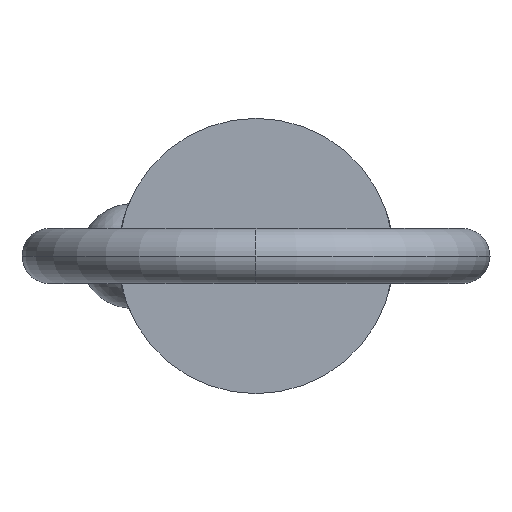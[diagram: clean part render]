
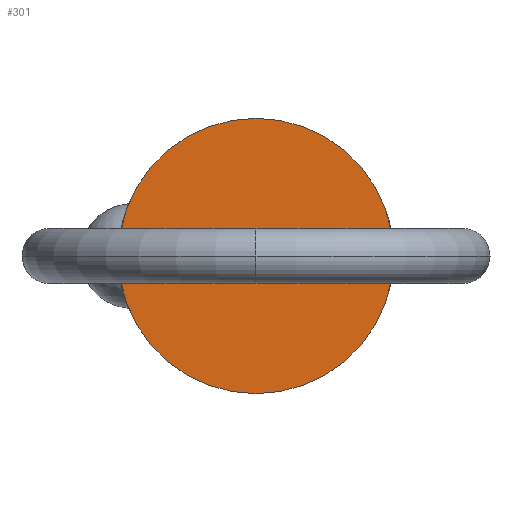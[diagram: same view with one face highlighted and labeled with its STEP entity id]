
A CAD part, left-side view. The second image highlights one B-rep face of the part: STEP entity #301.
In plain terms, the highlighted planar face has unit normal (-1, 0, 0).
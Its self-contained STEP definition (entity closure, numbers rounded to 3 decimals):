
#88 = FACE_OUTER_BOUND ( 'NONE', #637, .T. ) ;
#105 = DIRECTION ( 'NONE',  ( 0., 0., -1. ) ) ;
#128 = CARTESIAN_POINT ( 'NONE',  ( 0., 0., 12.7 ) ) ;
#179 = DIRECTION ( 'NONE',  ( 0., 0., -1. ) ) ;
#240 = VERTEX_POINT ( 'NONE', #758 ) ;
#301 = ADVANCED_FACE ( 'NONE', ( #88 ), #713, .T. ) ;
#341 = CARTESIAN_POINT ( 'NONE',  ( 0., 0., 0. ) ) ;
#399 = CARTESIAN_POINT ( 'NONE',  ( 0., 0., 0. ) ) ;
#406 = EDGE_CURVE ( 'NONE', #240, #972, #932, .T. ) ;
#412 = ORIENTED_EDGE ( 'NONE', *, *, #406, .F. ) ;
#469 = EDGE_CURVE ( 'NONE', #972, #240, #509, .T. ) ;
#476 = CARTESIAN_POINT ( 'NONE',  ( 0., 0., 0. ) ) ;
#509 = CIRCLE ( 'NONE', #980, 12.7 ) ;
#625 = DIRECTION ( 'NONE',  ( 1., 0., 0. ) ) ;
#637 = EDGE_LOOP ( 'NONE', ( #412, #845 ) ) ;
#708 = DIRECTION ( 'NONE',  ( 0., 0., 1. ) ) ;
#713 = PLANE ( 'NONE',  #887 ) ;
#758 = CARTESIAN_POINT ( 'NONE',  ( 0., 0., -12.7 ) ) ;
#779 = DIRECTION ( 'NONE',  ( -1., 0., 0. ) ) ;
#820 = AXIS2_PLACEMENT_3D ( 'NONE', #476, #854, #179 ) ;
#845 = ORIENTED_EDGE ( 'NONE', *, *, #469, .F. ) ;
#854 = DIRECTION ( 'NONE',  ( 1., 0., 0. ) ) ;
#887 = AXIS2_PLACEMENT_3D ( 'NONE', #341, #779, #708 ) ;
#932 = CIRCLE ( 'NONE', #820, 12.7 ) ;
#972 = VERTEX_POINT ( 'NONE', #128 ) ;
#980 = AXIS2_PLACEMENT_3D ( 'NONE', #399, #625, #105 ) ;
